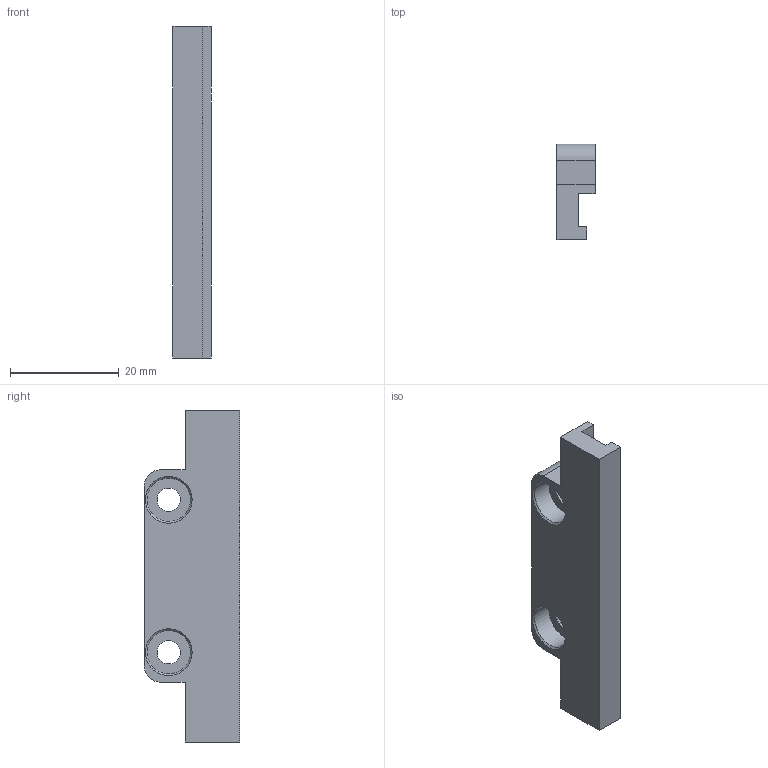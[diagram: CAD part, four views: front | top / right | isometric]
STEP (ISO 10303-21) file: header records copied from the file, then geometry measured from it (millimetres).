
FILE_DESCRIPTION(/* description */ (''),/* implementation_level */ '2;1');
FILE_NAME(/* name */ 'ASSY_STAVE_ONWHEELS_11.stp',/* time_stamp */ '2017-12-06T14:20:08+01:00',/* author */ (''),/* organization */ (''),/* preprocessor_version */ 'ST-DEVELOPER v16',/* originating_system */ 'SIEMENS PLM Software NX 10.0',/* authorisation */ '');
FILE_SCHEMA (('AP203_CONFIGURATION_CONTROLLED_3D_DESIGN_OF_MECHANICAL_PARTS_AND_ASSEMBLIES_MIM_LF { 1 0 10303 403 2 1 2}'));
Length unit declared in the file: millimetre
Products named in the file (1): turc1DB80072j4jm
Bounding box: 7 x 17.55 x 61 mm (x, y, z)
Volume: 4473.1 mm3; surface area: 3234.6 mm2
Topology: 1 solids, 1 shells, 26 faces, 64 edges, 42 vertices
Faces by surface type: plane 16, cylinder 6, cone 4
Full cylindrical faces by diameter (mm): 4.3 x2, 8 x2
Entity records: 810 total; most frequent: DIRECTION 124, CARTESIAN_POINT 121, ORIENTED_EDGE 108, EDGE_CURVE 54, AXIS2_PLACEMENT_3D 43, EDGE_LOOP 40, VERTEX_POINT 40, LINE 38
